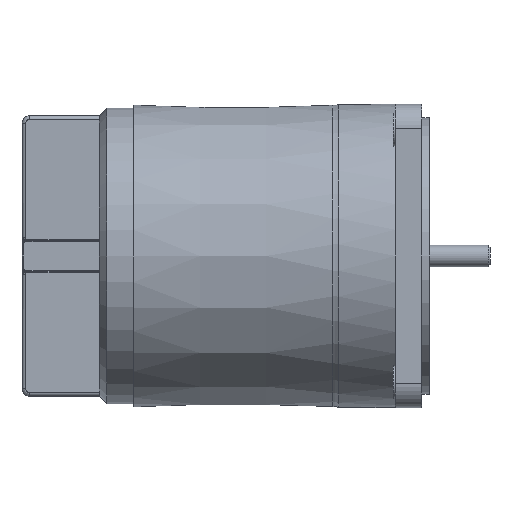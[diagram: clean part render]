
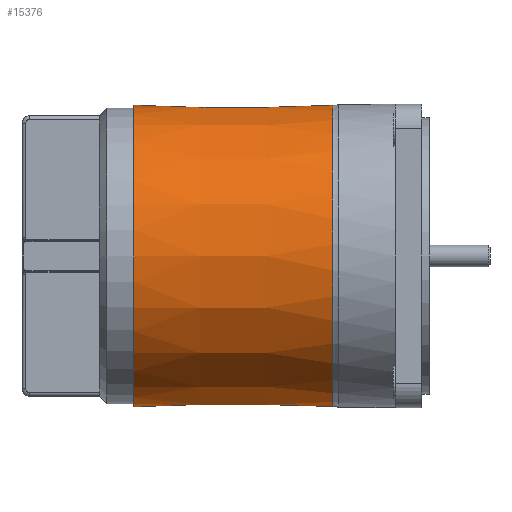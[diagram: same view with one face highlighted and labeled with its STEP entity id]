
A CAD part, front view. The second image highlights one B-rep face of the part: STEP entity #15376.
In plain terms, the highlighted conical face has half-angle 0.073 degrees and reference radius 39.784 mm.
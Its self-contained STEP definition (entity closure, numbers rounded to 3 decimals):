
#21=(
BOUNDED_CURVE()
B_SPLINE_CURVE(2,(#25308,#25309,#25310),.UNSPECIFIED.,.F.,.F.)
B_SPLINE_CURVE_WITH_KNOTS((3,3),(0.114,3.908),
 .UNSPECIFIED.)
CURVE()
GEOMETRIC_REPRESENTATION_ITEM()
RATIONAL_B_SPLINE_CURVE((1.,1.,1.))
REPRESENTATION_ITEM('')
);
#91=B_SPLINE_CURVE_WITH_KNOTS('',3,(#25245,#25246,#25247,#25248,#25249,
#25250,#25251,#25252,#25253,#25254,#25255,#25256),.UNSPECIFIED.,.F.,.F.,
(4,2,2,2,2,4),(-0.001,0.,0.027,0.048,
0.073,0.103),.UNSPECIFIED.);
#104=B_SPLINE_CURVE_WITH_KNOTS('',3,(#25480,#25481,#25482,#25483),
 .UNSPECIFIED.,.F.,.F.,(4,4),(5.75,5.8),
 .UNSPECIFIED.);
#105=B_SPLINE_CURVE_WITH_KNOTS('',3,(#25485,#25486,#25487,#25488),
 .UNSPECIFIED.,.F.,.F.,(4,4),(-5.75,-1.842),
 .UNSPECIFIED.);
#332=FACE_BOUND('',#2984,.T.);
#381=CONICAL_SURFACE('',#16716,39.784,0.073);
#1222=CIRCLE('',#16690,39.767);
#1232=CIRCLE('',#16712,39.817);
#1233=CIRCLE('',#16714,39.817);
#1235=CIRCLE('',#16717,39.75);
#2027=FACE_OUTER_BOUND('',#2983,.T.);
#2983=EDGE_LOOP('',(#12365,#12366,#12367,#12368,#12369,#12370,#12371));
#2984=EDGE_LOOP('',(#12372));
#6796=VERTEX_POINT('',#25243);
#6797=VERTEX_POINT('',#25244);
#6798=VERTEX_POINT('',#25269);
#6804=VERTEX_POINT('',#25301);
#6816=VERTEX_POINT('',#25479);
#6817=VERTEX_POINT('',#25484);
#6824=VERTEX_POINT('',#25591);
#6826=VERTEX_POINT('',#25606);
#8684=EDGE_CURVE('',#6796,#6797,#91,.T.);
#8687=EDGE_CURVE('',#6796,#6798,#1222,.T.);
#8696=EDGE_CURVE('',#6797,#6804,#21,.T.);
#8715=EDGE_CURVE('',#6816,#6798,#104,.T.);
#8716=EDGE_CURVE('',#6816,#6817,#105,.T.);
#8731=EDGE_CURVE('',#6817,#6824,#1232,.T.);
#8734=EDGE_CURVE('',#6824,#6804,#1233,.T.);
#8736=EDGE_CURVE('',#6826,#6826,#1235,.T.);
#12365=ORIENTED_EDGE('',*,*,#8684,.T.);
#12366=ORIENTED_EDGE('',*,*,#8696,.T.);
#12367=ORIENTED_EDGE('',*,*,#8734,.F.);
#12368=ORIENTED_EDGE('',*,*,#8731,.F.);
#12369=ORIENTED_EDGE('',*,*,#8716,.F.);
#12370=ORIENTED_EDGE('',*,*,#8715,.T.);
#12371=ORIENTED_EDGE('',*,*,#8687,.F.);
#12372=ORIENTED_EDGE('',*,*,#8736,.T.);
#15376=ADVANCED_FACE('',(#2027,#332),#381,.T.);
#16690=AXIS2_PLACEMENT_3D('',#25270,#20208,#20209);
#16712=AXIS2_PLACEMENT_3D('',#25592,#20268,#20269);
#16714=AXIS2_PLACEMENT_3D('',#25603,#20272,#20273);
#16716=AXIS2_PLACEMENT_3D('',#25605,#20276,#20277);
#16717=AXIS2_PLACEMENT_3D('',#25607,#20278,#20279);
#20208=DIRECTION('center_axis',(1.,0.,0.));
#20209=DIRECTION('ref_axis',(0.,1.,0.01));
#20268=DIRECTION('center_axis',(1.,0.,0.));
#20269=DIRECTION('ref_axis',(0.,1.,0.));
#20272=DIRECTION('center_axis',(1.,0.,0.));
#20273=DIRECTION('ref_axis',(0.,1.,0.));
#20276=DIRECTION('center_axis',(1.,0.,0.));
#20277=DIRECTION('ref_axis',(0.,1.,0.));
#20278=DIRECTION('center_axis',(1.,0.,0.));
#20279=DIRECTION('ref_axis',(0.,1.,0.));
#25243=CARTESIAN_POINT('',(22.001,28.641,-27.587));
#25244=CARTESIAN_POINT('',(23.636,28.041,-28.2));
#25245=CARTESIAN_POINT('Ctrl Pts',(22.001,28.641,-27.587));
#25246=CARTESIAN_POINT('Ctrl Pts',(22.002,28.64,-27.589));
#25247=CARTESIAN_POINT('Ctrl Pts',(22.003,28.638,-27.59));
#25248=CARTESIAN_POINT('Ctrl Pts',(22.044,28.581,-27.65));
#25249=CARTESIAN_POINT('Ctrl Pts',(22.115,28.498,-27.736));
#25250=CARTESIAN_POINT('Ctrl Pts',(22.343,28.338,-27.9));
#25251=CARTESIAN_POINT('Ctrl Pts',(22.457,28.278,-27.96));
#25252=CARTESIAN_POINT('Ctrl Pts',(22.724,28.17,-28.07));
#25253=CARTESIAN_POINT('Ctrl Pts',(22.88,28.126,-28.114));
#25254=CARTESIAN_POINT('Ctrl Pts',(23.234,28.058,-28.182));
#25255=CARTESIAN_POINT('Ctrl Pts',(23.435,28.041,-28.2));
#25256=CARTESIAN_POINT('Ctrl Pts',(23.636,28.041,-28.2));
#25269=CARTESIAN_POINT('',(22.001,27.47,28.754));
#25270=CARTESIAN_POINT('Origin',(22.001,0.,
0.));
#25301=CARTESIAN_POINT('',(61.576,28.11,-28.2));
#25308=CARTESIAN_POINT('Ctrl Pts',(23.636,28.041,-28.2));
#25309=CARTESIAN_POINT('Ctrl Pts',(42.583,28.076,-28.2));
#25310=CARTESIAN_POINT('Ctrl Pts',(61.576,28.11,-28.2));
#25479=CARTESIAN_POINT('',(22.5,27.471,28.754));
#25480=CARTESIAN_POINT('Ctrl Pts',(22.5,27.471,28.754));
#25481=CARTESIAN_POINT('Ctrl Pts',(22.334,27.471,28.754));
#25482=CARTESIAN_POINT('Ctrl Pts',(22.167,27.47,28.754));
#25483=CARTESIAN_POINT('Ctrl Pts',(22.001,27.47,28.754));
#25484=CARTESIAN_POINT('',(61.576,27.542,28.756));
#25485=CARTESIAN_POINT('Ctrl Pts',(22.5,27.471,28.754));
#25486=CARTESIAN_POINT('Ctrl Pts',(35.525,27.495,28.754));
#25487=CARTESIAN_POINT('Ctrl Pts',(48.55,27.518,28.755));
#25488=CARTESIAN_POINT('Ctrl Pts',(61.576,27.542,28.756));
#25591=CARTESIAN_POINT('',(61.576,27.541,28.756));
#25592=CARTESIAN_POINT('Origin',(61.576,0.,
0.));
#25603=CARTESIAN_POINT('Origin',(61.576,0.,
0.));
#25605=CARTESIAN_POINT('Origin',(35.288,0.,
0.));
#25606=CARTESIAN_POINT('',(9.,39.75,0.));
#25607=CARTESIAN_POINT('Origin',(9.,0.,
0.));
